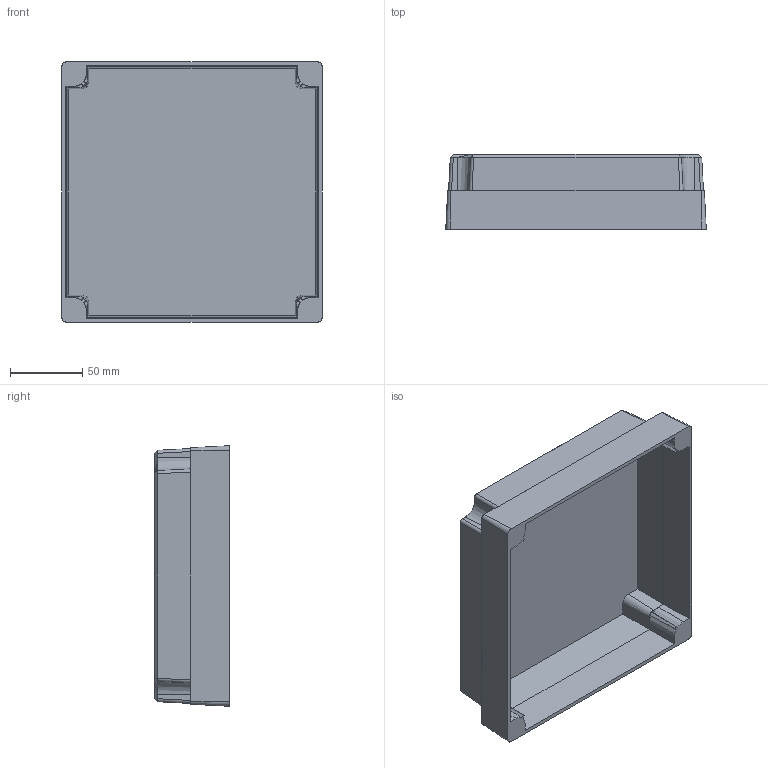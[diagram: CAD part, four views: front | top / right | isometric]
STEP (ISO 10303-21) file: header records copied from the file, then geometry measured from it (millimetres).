
FILE_DESCRIPTION (( 'STEP AP203' ), '1' );
FILE_NAME ('FIBOX_MNX17550C.STEP', '2005-06-30T06:46:00', ( ' ' ), ( ' ' ), 'SwSTEP 2.0', 'SolidWorks 2005143', '' );
FILE_SCHEMA (( 'CONFIG_CONTROL_DESIGN' ));
Length unit declared in the file: millimetre
Products named in the file (1): FIBOX_MNX17550C
Bounding box: 180 x 51.6 x 180 mm (x, y, z)
Volume: 151580.1 mm3; surface area: 132130.2 mm2
Topology: 1 solids, 1 shells, 119 faces, 320 edges, 210 vertices
Faces by surface type: plane 73, cone 24, cylinder 20, bspline 2
Entity records: 6812 total; most frequent: CARTESIAN_POINT 3817, ORIENTED_EDGE 640, DIRECTION 568, EDGE_CURVE 320, VERTEX_POINT 210, AXIS2_PLACEMENT_3D 194, VECTOR 180, LINE 180
